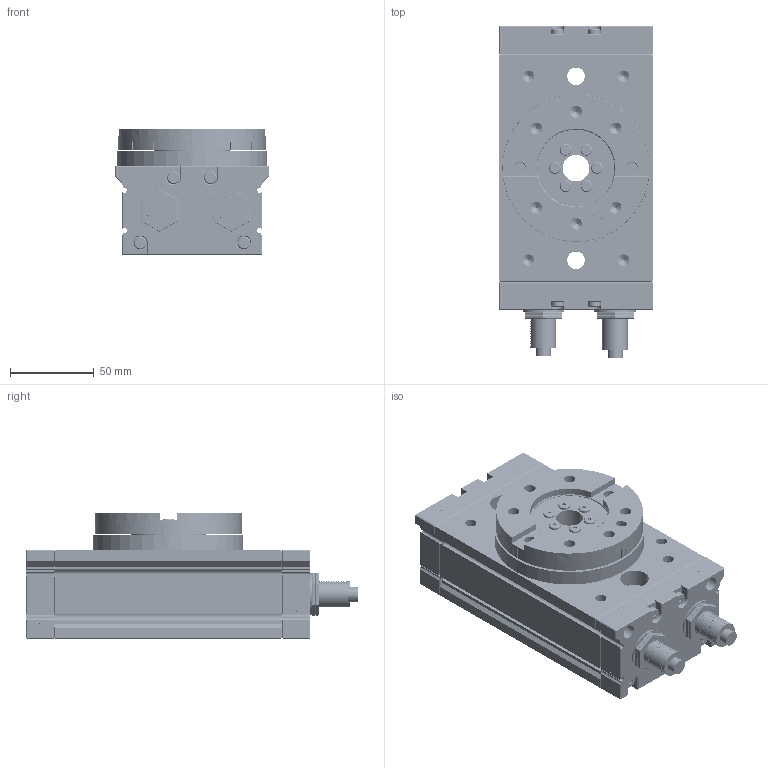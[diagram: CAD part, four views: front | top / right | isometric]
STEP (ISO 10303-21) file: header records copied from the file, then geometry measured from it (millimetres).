
FILE_DESCRIPTION (( 'STEP AP203' ), '1' );
FILE_NAME ('gtb70.STEP', '2013-05-06T07:57:06', ( 'Christophe Gaillard' ), ( 'SGA' ), 'SwSTEP 2.0', 'SolidWorks 2010', '' );
FILE_SCHEMA (( 'CONFIG_CONTROL_DESIGN' ));
Products named in the file (11): Pièce A GTB 70_Default; Disque GTB 70_Default; Vis corpe 70_Default; Petite vis GTB 70_Default; gtb70; GTB 70 corp_Default; Pièce B GTB 70_Default; Amortisseur GTB 70_Default; Butée en caoutchouc GTB 70_Default; Boulon GTB 70_Default; Vis pièce A et B GTB 70_Default
Assembly tree (34 placements, depth 2):
  gtb70
    Vis pièce A et B GTB 70_Default  x8
    Boulon GTB 70_Default  x4
    Petite vis GTB 70_Default  x8
    GTB 70 corp_Default
    Disque GTB 70_Default
    Vis corpe 70_Default  x6
    Butée en caoutchouc GTB 70_Default  x2
    Amortisseur GTB 70_Default  x2
    Pièce B GTB 70_Default
    Pièce A GTB 70_Default
Bounding box: 92 x 198.5 x 75 mm (x, y, z)
Volume: 829473.2 mm3; surface area: 144730.4 mm2
Topology: 34 solids, 42 shells, 18700 faces, 42858 edges, 26490 vertices
Faces by surface type: plane 8868, cylinder 7248, cone 1422, torus 507, bspline 457, sphere 198
Entity records: 181055 total; most frequent: CARTESIAN_POINT 52157, DIRECTION 27682, ORIENTED_EDGE 25604, EDGE_CURVE 12802, AXIS2_PLACEMENT_3D 10666, VERTEX_POINT 7701, LINE 6350, VECTOR 6350
